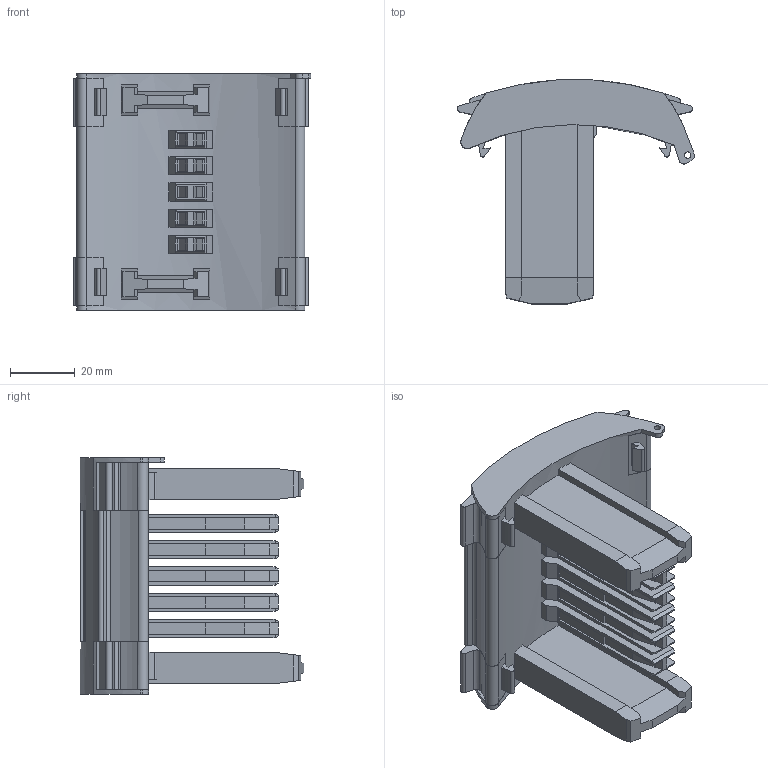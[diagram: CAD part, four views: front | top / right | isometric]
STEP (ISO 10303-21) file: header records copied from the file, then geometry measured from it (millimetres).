
FILE_DESCRIPTION(('TFLEX Exchange Step'),'2;1');
FILE_NAME('3074120_FAME_WP_4+1_STEZ.stp', '2024-05-28T10:24:39+03:00',('apanin'),('Unknown organisation'),'TFLEX Exchange 2023.2','T-FLEX CAD','Unknown authorisation');
FILE_SCHEMA( ('AUTOMOTIVE_DESIGN { 1 0 10303 214 1 1 1 1 }') );
Length unit declared in the file: millimetre
Products named in the file (1): Тело_1 - 3074120_FAME_WP_4_1-select:1
Bounding box: 73.53 x 69.33 x 73.35 mm (x, y, z)
Volume: 97567.6 mm3; surface area: 33456.9 mm2
Topology: 1 solids, 1 shells, 383 faces, 1062 edges, 694 vertices
Faces by surface type: plane 322, cylinder 61
Full cylindrical faces by diameter (mm): 2 x1
Entity records: 12281 total; most frequent: CARTESIAN_POINT 2140, ORIENTED_EDGE 2124, DIRECTION 2038, EDGE_CURVE 1062, VECTOR 854, LINE 854, VERTEX_POINT 694, AXIS2_PLACEMENT_3D 592
